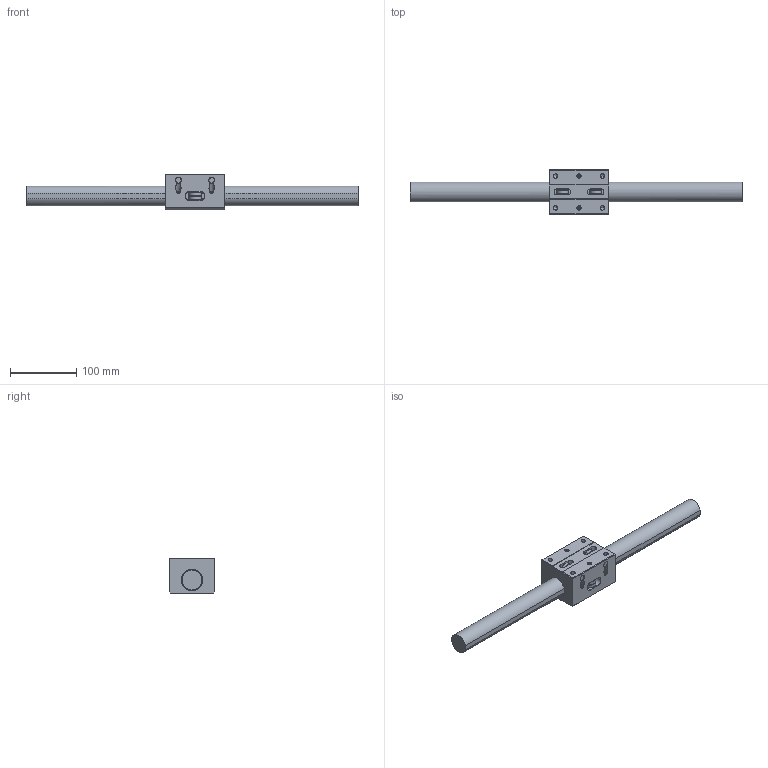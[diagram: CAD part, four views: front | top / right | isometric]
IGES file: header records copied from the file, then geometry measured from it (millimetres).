
Global section: file name: No Iges File Name specified; native system: AutoDesk Inventor R10; preprocessor: AutoDesk Inventor Iges Exporter R10; author: No Author specified; organization: No Organization specified; date: 20101222.155021; units: millimetre
Bounding box: 500 x 68 x 54 mm (x, y, z)
Surface area: 100247.1 mm2 (no closed solid volume)
Topology: 0 solids, 0 shells, 350 faces, 2660 edges, 2636 vertices
Faces by surface type: bspline 350
